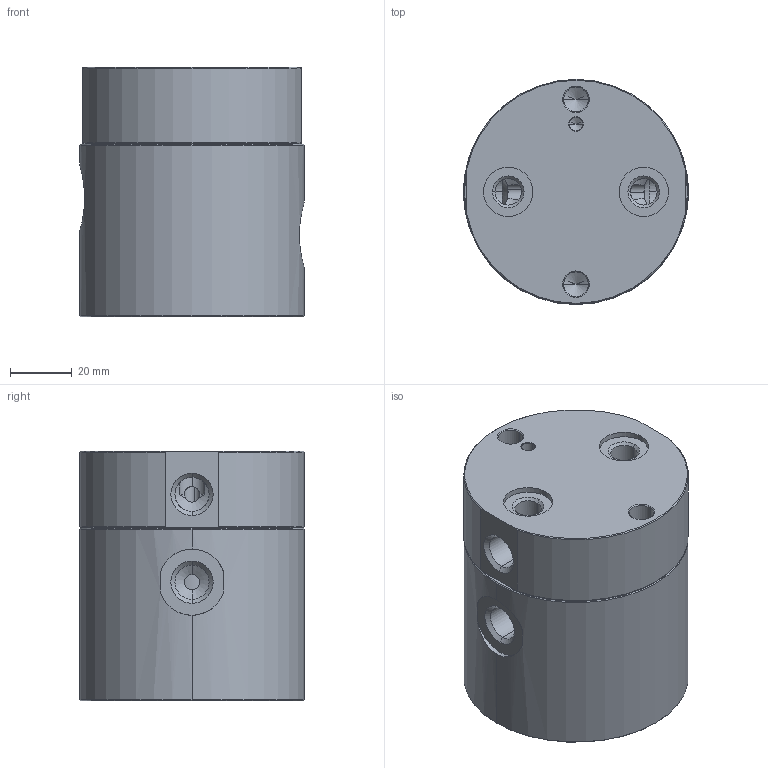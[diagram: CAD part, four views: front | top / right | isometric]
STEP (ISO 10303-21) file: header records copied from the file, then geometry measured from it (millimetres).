
FILE_DESCRIPTION(/* description */ (''),/* implementation_level */ '2;1');
FILE_NAME(/* name */ '01.stp',/* time_stamp */ '2024-09-03T09:02:20+08:00',/* author */ (''),/* organization */ (''),/* preprocessor_version */ 'ST-DEVELOPER v16.7',/* originating_system */ 'SIEMENS PLM Software NX 12.0',/* authorisation */ '');
FILE_SCHEMA (('AP203_CONFIGURATION_CONTROLLED_3D_DESIGN_OF_MECHANICAL_PARTS_AND_ASSEMBLIES_MIM_LF { 1 0 10303 403 2 1 2}'));
Length unit declared in the file: millimetre
Products named in the file (1): TMA02-S-A_stp
Bounding box: 73 x 73 x 81 mm (x, y, z)
Volume: 328983.8 mm3; surface area: 41485.1 mm2
Topology: 2 solids, 3 shells, 138 faces, 346 edges, 206 vertices
Faces by surface type: cone 66, cylinder 54, plane 16, torus 2
Entity records: 4438 total; most frequent: CARTESIAN_POINT 1112, DIRECTION 702, ORIENTED_EDGE 652, EDGE_CURVE 326, AXIS2_PLACEMENT_3D 290, VERTEX_POINT 206, EDGE_LOOP 158, CIRCLE 141
